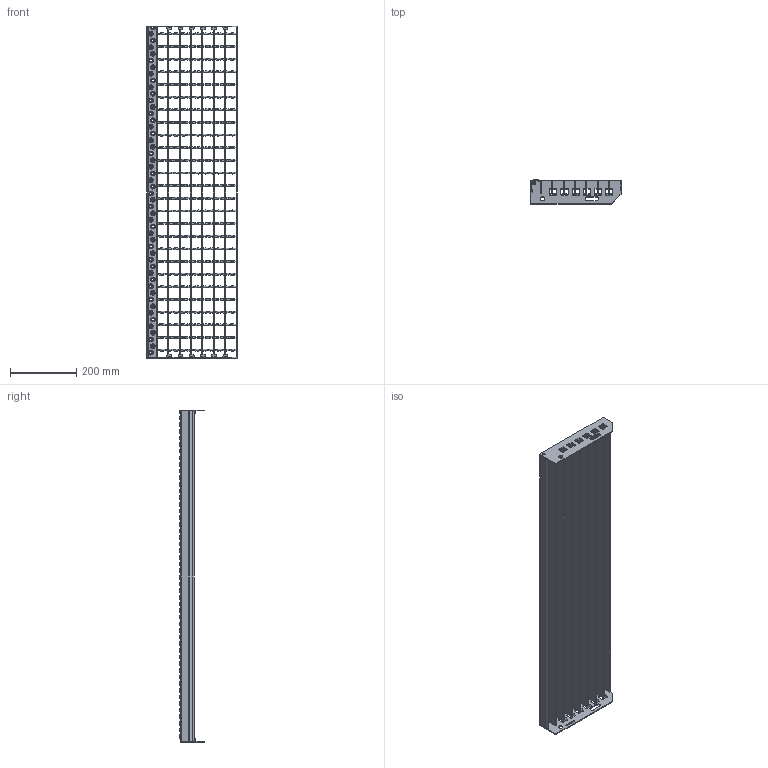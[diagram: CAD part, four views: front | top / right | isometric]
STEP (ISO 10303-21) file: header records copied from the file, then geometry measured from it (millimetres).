
FILE_DESCRIPTION(/* description */ ('','CAx-IF Rec.Pracs.---Representation and Presentation of Product Manufacturing Information (PMI)---3.8---2014-02-18'),/* implementation_level */ '2;1');
FILE_NAME(/* name */ 'C:\Users\phaverkotte\Desktop\Lager STEP\SP-Stufen\SP 340-34 38-3\SP 340-34 38-3 1000mm x270mm.stp',/* time_stamp */ '2018-03-24T11:57:06+01:00',/* author */ ('phaverkotte'),/* organization */ (''),/* preprocessor_version */ 'ST-DEVELOPER v16.13',/* originating_system */ 'Autodesk Inventor 2018',/* authorisation */ '');
FILE_SCHEMA (('AP242_MANAGED_MODEL_BASED_3D_ENGINEERING_MIM_LF { 1 0 10303 442 1 1 4 }'));
Length unit declared in the file: millimetre
Products named in the file (8): Stufe SP; Seitenplatte ausgeklinkt links; Seitenplatte 240 ausgeklinkt extern rechts; Schod nášlap; SP Rošt schodu; Nosny pas; Krouceny drat; Hinteres Flach
Assembly tree (38 placements, depth 3):
  Stufe SP
    Seitenplatte ausgeklinkt links
    Seitenplatte 240 ausgeklinkt extern rechts
    Schod nášlap
    SP Rošt schodu
      Nosny pas  x7
      Krouceny drat  x26
      Hinteres Flach
Bounding box: 271.31 x 72.75 x 1000 mm (x, y, z)
Volume: 1257245.3 mm3; surface area: 970665.8 mm2
Topology: 37 solids, 37 shells, 1234 faces, 3308 edges, 2165 vertices
Faces by surface type: plane 592, cylinder 314, cone 150, bspline 128, torus 50
Full cylindrical faces by diameter (mm): 8 x2, 13 x2
Entity records: 26974 total; most frequent: CARTESIAN_POINT 8666, DIRECTION 3718, ORIENTED_EDGE 3404, EDGE_CURVE 1702, AXIS2_PLACEMENT_3D 1321, VERTEX_POINT 1195, EDGE_LOOP 1087, LINE 1076
